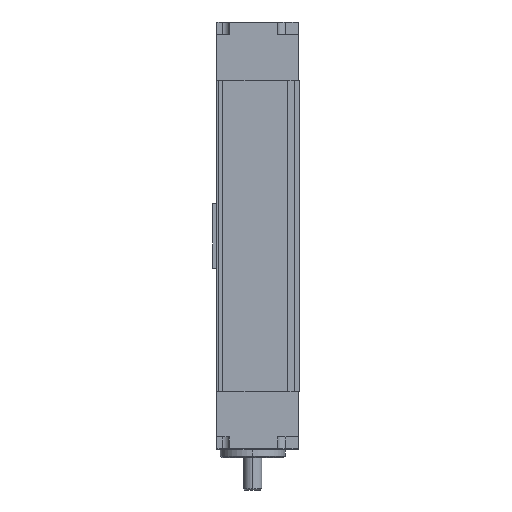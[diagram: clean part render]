
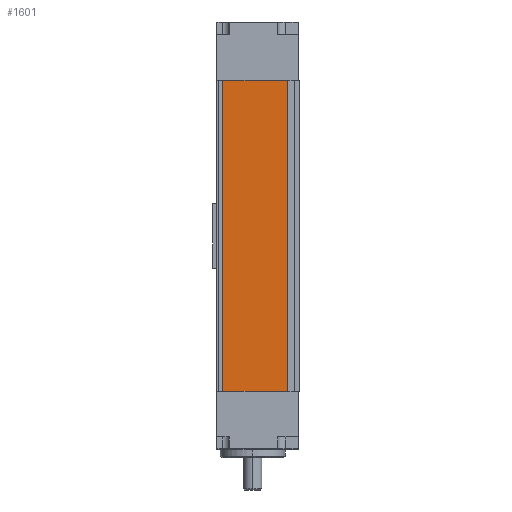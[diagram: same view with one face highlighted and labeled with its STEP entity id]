
A CAD part, left-side view. The second image highlights one B-rep face of the part: STEP entity #1601.
In plain terms, the highlighted planar face has unit normal (-1, 0, 0).
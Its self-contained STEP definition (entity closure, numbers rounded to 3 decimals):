
#978 = EDGE_CURVE ( 'NONE', #9289, #987, #4716, .T. ) ;
#987 = VERTEX_POINT ( 'NONE', #4686 ) ;
#1296 = ORIENTED_EDGE ( 'NONE', *, *, #3909, .T. ) ;
#1577 = ORIENTED_EDGE ( 'NONE', *, *, #978, .F. ) ;
#1579 = EDGE_CURVE ( 'NONE', #987, #2197, #5688, .T. ) ;
#1584 = ORIENTED_EDGE ( 'NONE', *, *, #1579, .F. ) ;
#1601 = ADVANCED_FACE ( 'NONE', ( #5709 ), #5701, .F. ) ;
#2003 = EDGE_LOOP ( 'NONE', ( #1584, #1577, #1296, #3883 ) ) ;
#2176 = VERTEX_POINT ( 'NONE', #6588 ) ;
#2197 = VERTEX_POINT ( 'NONE', #6609 ) ;
#2204 = EDGE_CURVE ( 'NONE', #2176, #2197, #6658, .T. ) ;
#3883 = ORIENTED_EDGE ( 'NONE', *, *, #2204, .T. ) ;
#3909 = EDGE_CURVE ( 'NONE', #9289, #2176, #8050, .T. ) ;
#4686 = CARTESIAN_POINT ( 'NONE',  ( -75., -26.9, 240. ) ) ;
#4713 = DIRECTION ( 'NONE',  ( 0., -1., 0. ) ) ;
#4714 = VECTOR ( 'NONE', #4713, 1000. ) ;
#4715 = CARTESIAN_POINT ( 'NONE',  ( -75., -36., 240. ) ) ;
#4716 = LINE ( 'NONE', #4715, #4714 ) ;
#5662 = CARTESIAN_POINT ( 'NONE',  ( -75., -36., 240. ) ) ;
#5664 = AXIS2_PLACEMENT_3D ( 'NONE', #5662, #5697, #5696 ) ;
#5675 = DIRECTION ( 'NONE',  ( 0., 0., -1. ) ) ;
#5676 = VECTOR ( 'NONE', #5675, 1000. ) ;
#5684 = CARTESIAN_POINT ( 'NONE',  ( -75., -26.9, 240. ) ) ;
#5688 = LINE ( 'NONE', #5684, #5676 ) ;
#5696 = DIRECTION ( 'NONE',  ( 0., 0., -1. ) ) ;
#5697 = DIRECTION ( 'NONE',  ( 1., 0., 0. ) ) ;
#5701 = PLANE ( 'NONE',  #5664 ) ;
#5709 = FACE_OUTER_BOUND ( 'NONE', #2003, .T. ) ;
#6588 = CARTESIAN_POINT ( 'NONE',  ( -75., 23.2, 0. ) ) ;
#6609 = CARTESIAN_POINT ( 'NONE',  ( -75., -26.9, 0. ) ) ;
#6653 = DIRECTION ( 'NONE',  ( 0., -1., 0. ) ) ;
#6654 = VECTOR ( 'NONE', #6653, 1000. ) ;
#6657 = CARTESIAN_POINT ( 'NONE',  ( -75., -36., 0. ) ) ;
#6658 = LINE ( 'NONE', #6657, #6654 ) ;
#8047 = DIRECTION ( 'NONE',  ( 0., 0., -1. ) ) ;
#8048 = VECTOR ( 'NONE', #8047, 1000. ) ;
#8049 = CARTESIAN_POINT ( 'NONE',  ( -75., 23.2, 240. ) ) ;
#8050 = LINE ( 'NONE', #8049, #8048 ) ;
#8490 = CARTESIAN_POINT ( 'NONE',  ( -75., 23.2, 240. ) ) ;
#9289 = VERTEX_POINT ( 'NONE', #8490 ) ;
